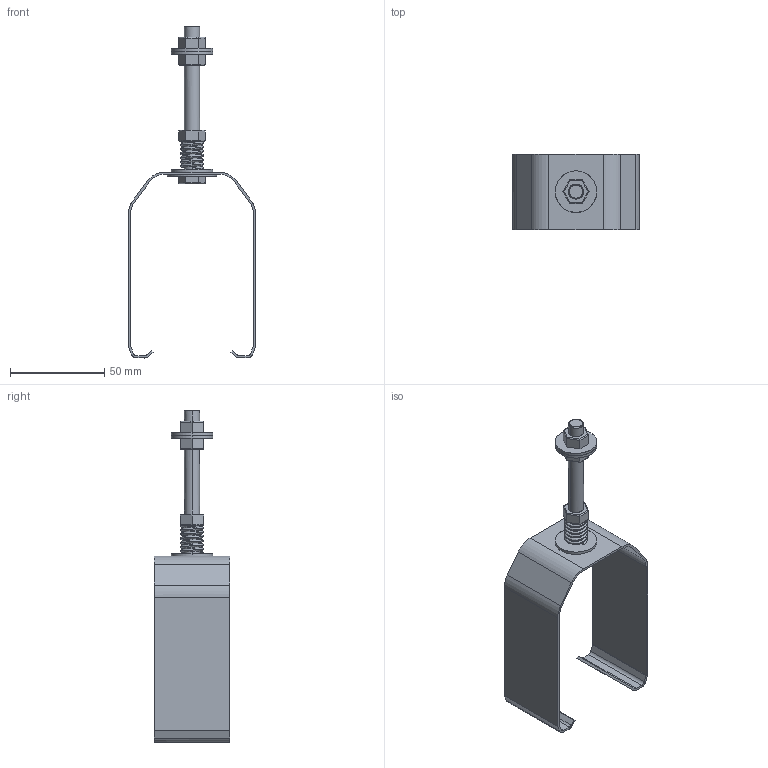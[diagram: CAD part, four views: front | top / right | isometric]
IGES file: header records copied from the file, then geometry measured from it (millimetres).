
Start section: Comment
Global section: file name: Suspension_coulissante_2010_06.igs; native system:  By UGS Corp.; preprocessor: XPlus GENERIC/IGES 3.0; author: Author; organization: Title; date: 20100624.111150; units: millimetre
Bounding box: 67.4 x 40 x 176 mm (x, y, z)
Surface area: 26993.4 mm2 (no closed solid volume)
Topology: 0 solids, 0 shells, 142 faces, 854 edges, 854 vertices
Faces by surface type: bspline 142
